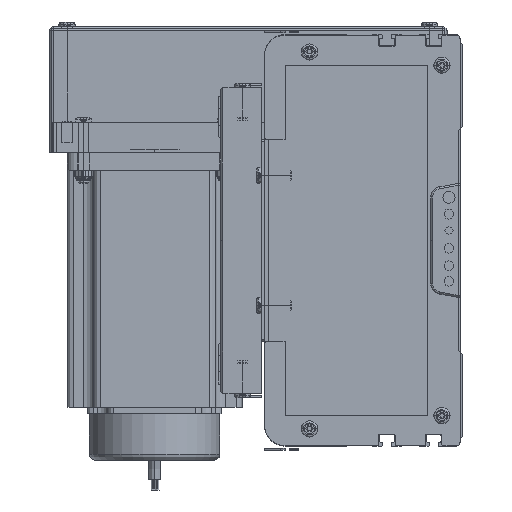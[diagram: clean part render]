
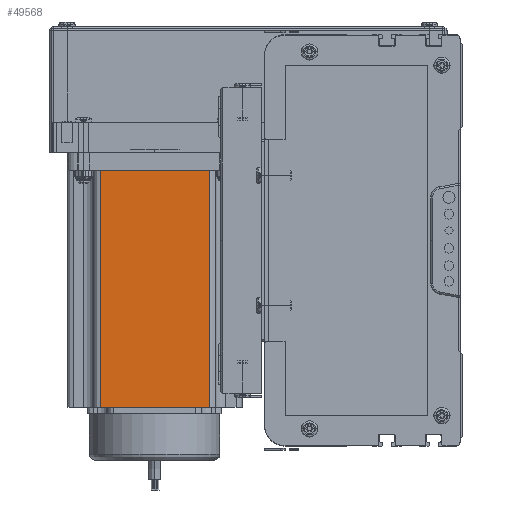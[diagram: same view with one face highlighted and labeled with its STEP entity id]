
A CAD part, left-side view. The second image highlights one B-rep face of the part: STEP entity #49568.
In plain terms, the highlighted planar face has unit normal (-1, 0, 0) as drawn and (0, -1, 0) by its records, which use the part's own axes.
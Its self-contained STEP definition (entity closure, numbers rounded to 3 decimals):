
#49175 = EDGE_CURVE ( 'NONE', #49642, #49176, #85160, .T. ) ;
#49176 = VERTEX_POINT ( 'NONE', #85352 ) ;
#49180 = EDGE_CURVE ( 'NONE', #49397, #49176, #85316, .T. ) ;
#49184 = EDGE_CURVE ( 'NONE', #49397, #49615, #85150, .T. ) ;
#49397 = VERTEX_POINT ( 'NONE', #85915 ) ;
#49401 = EDGE_LOOP ( 'NONE', ( #49641, #49402, #49624, #49623 ) ) ;
#49402 = ORIENTED_EDGE ( 'NONE', *, *, #49175, .T. ) ;
#49557 = EDGE_CURVE ( 'NONE', #49615, #49642, #86348, .T. ) ;
#49568 = ADVANCED_FACE ( 'NONE', ( #86465 ), #86363, .F. ) ;
#49615 = VERTEX_POINT ( 'NONE', #86800 ) ;
#49623 = ORIENTED_EDGE ( 'NONE', *, *, #49184, .T. ) ;
#49624 = ORIENTED_EDGE ( 'NONE', *, *, #49180, .F. ) ;
#49641 = ORIENTED_EDGE ( 'NONE', *, *, #49557, .T. ) ;
#49642 = VERTEX_POINT ( 'NONE', #86858 ) ;
#85150 = LINE ( 'NONE', #85303, #85302 ) ;
#85155 = DIRECTION ( 'NONE',  ( 0., 0., 1. ) ) ;
#85156 = VECTOR ( 'NONE', #85155, 1000. ) ;
#85158 = CARTESIAN_POINT ( 'NONE',  ( 69.74, 0., 116.5 ) ) ;
#85160 = LINE ( 'NONE', #85158, #85156 ) ;
#85300 = DIRECTION ( 'NONE',  ( 0., 0., -1. ) ) ;
#85302 = VECTOR ( 'NONE', #85300, 1000. ) ;
#85303 = CARTESIAN_POINT ( 'NONE',  ( 16.16, 0., 116.5 ) ) ;
#85310 = DIRECTION ( 'NONE',  ( 1., 0., 0. ) ) ;
#85311 = VECTOR ( 'NONE', #85310, 1000. ) ;
#85313 = CARTESIAN_POINT ( 'NONE',  ( 0., 0., 116.5 ) ) ;
#85316 = LINE ( 'NONE', #85313, #85311 ) ;
#85352 = CARTESIAN_POINT ( 'NONE',  ( 69.74, 0., 116.5 ) ) ;
#85915 = CARTESIAN_POINT ( 'NONE',  ( 16.16, 0., 116.5 ) ) ;
#86226 = CARTESIAN_POINT ( 'NONE',  ( 0., 0., 116.5 ) ) ;
#86348 = LINE ( 'NONE', #86469, #86467 ) ;
#86349 = AXIS2_PLACEMENT_3D ( 'NONE', #86226, #86463, #86452 ) ;
#86363 = PLANE ( 'NONE',  #86349 ) ;
#86452 = DIRECTION ( 'NONE',  ( 0., 0., 1. ) ) ;
#86463 = DIRECTION ( 'NONE',  ( 0., 1., 0. ) ) ;
#86465 = FACE_OUTER_BOUND ( 'NONE', #49401, .T. ) ;
#86466 = DIRECTION ( 'NONE',  ( 1., 0., 0. ) ) ;
#86467 = VECTOR ( 'NONE', #86466, 1000. ) ;
#86469 = CARTESIAN_POINT ( 'NONE',  ( 0., 0., 0. ) ) ;
#86800 = CARTESIAN_POINT ( 'NONE',  ( 16.16, 0., 0. ) ) ;
#86858 = CARTESIAN_POINT ( 'NONE',  ( 69.74, 0., 0. ) ) ;
